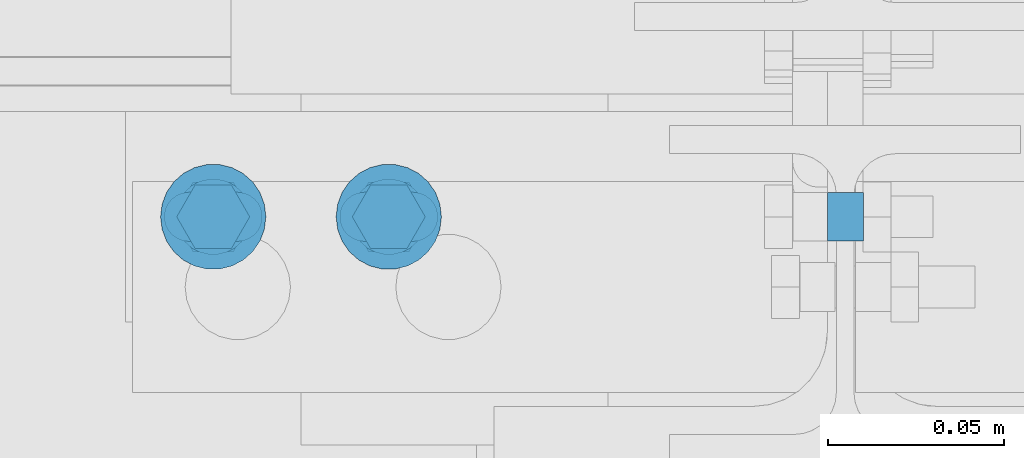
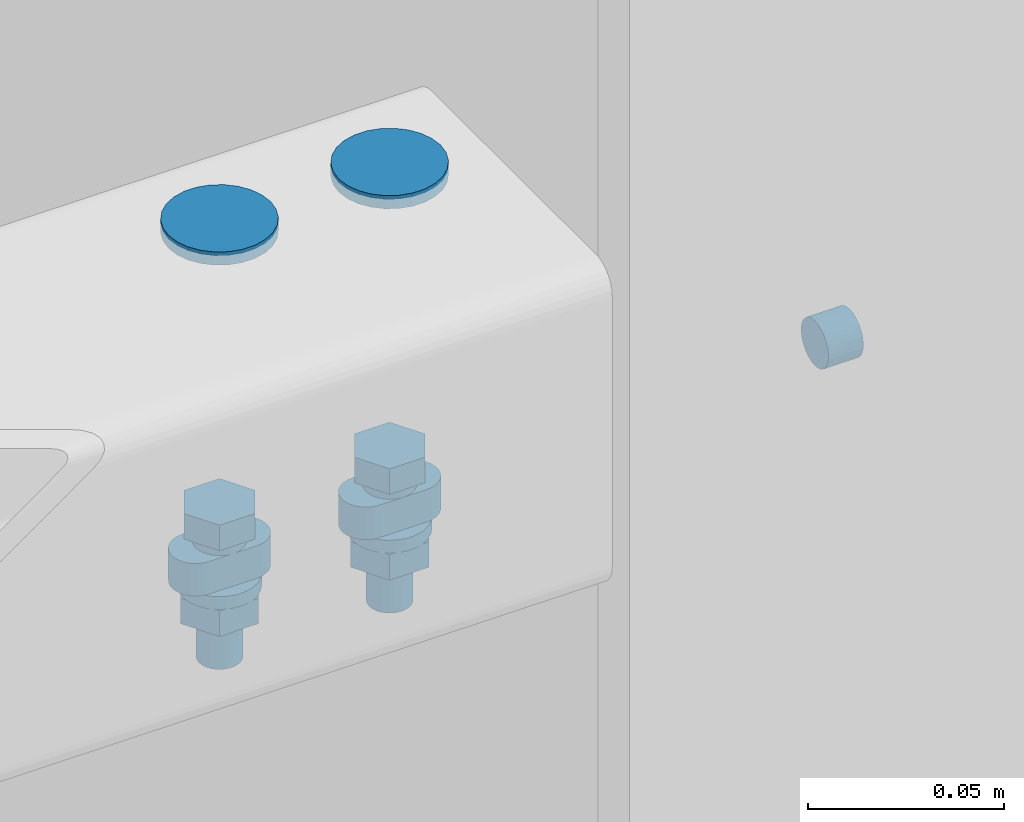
# One storey, part 315 of 362: 3 mechanical fasteners.
"""IFC2X3 building model written with IfcOpenShell, lengths in millimetres."""

from ifc_helpers import new_model, si_unit, frame, frame_2d, origin_with_axes, origin_2d_with_axis, place, context, subcontext, project, spatial, polyline, circle_curve, parameter, trimmed, segment, composite_curve, circle, outline, extrude, source, transform, mapped, material, type_object, element, save


model = new_model("IFC2X3")

# Units and contexts
model_context = context("Model", 3, precision=1e-05, world=origin_with_axes())
body_context = subcontext(model_context, "Body", "Model", "MODEL_VIEW")
ifc_project = project(units=[si_unit("LENGTHUNIT", "METRE", prefix="MILLI"), si_unit("AREAUNIT", "SQUARE_METRE"), si_unit("VOLUMEUNIT", "CUBIC_METRE"), si_unit("MASSUNIT", "GRAM", prefix="KILO"), si_unit("TIMEUNIT", "SECOND"), si_unit("PLANEANGLEUNIT", "RADIAN"), si_unit("SOLIDANGLEUNIT", "STERADIAN"), si_unit("THERMODYNAMICTEMPERATUREUNIT", "DEGREE_CELSIUS"), si_unit("LUMINOUSINTENSITYUNIT", "LUMEN")], contexts=[model_context])

# Site, building, storey
site_placement = place(None, origin_with_axes())
site = spatial("IfcSite", under=ifc_project, at=site_placement, Name="Undefined", CompositionType="ELEMENT")
building_placement = place(site_placement, origin_with_axes())
building = spatial("IfcBuilding", under=site, at=building_placement, Name="Undefined", CompositionType="ELEMENT")
storey_placement = place(building_placement, origin_with_axes())
storey = spatial("IfcBuildingStorey", under=building, at=storey_placement, Name="Undefined", CompositionType="ELEMENT", Elevation=0.0)

# Mechanical fasteners
ifc_material_1 = material(Name="8.8-SB-ZINGUE")
mechanical_fastener_type = type_object("IfcMechanicalFastenerType", Name="Bolt assembly")
shared_shape_1 = source(origin_with_axes(), body_context, "Body", "SweptSolid", [
    extrude(circle(Radius=7.0, at=origin_2d_with_axis()), frame((0.0, -5.10183049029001, 0.0), z_axis=(0.0, 1.0, 0.0), x_axis=(1.0, 0.0, 0.0)), (0.0, 0.0, 1.0), 10.3),
])
mechanical_fastener_1_placement = place(storey_placement, frame((39630.0, -110.000006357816, 2760.0), z_axis=(0.0, 1.0, 0.0), x_axis=(0.0, 0.0, 1.0)))
element("IfcMechanicalFastener", 1, at=mechanical_fastener_1_placement, inside=storey, type_object=mechanical_fastener_type, material=ifc_material_1, Name="Bolt assembly", NominalDiameter=12.0, NominalLength=10.1999998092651, context=body_context, shape_type="MappedRepresentation", body=[
    mapped(shared_shape_1, transform((0.0, 0.0, 0.0))),
])
ifc_material_2 = material(Name="6.8")
shared_shape_2 = source(origin_with_axes(), body_context, "Body", "SweptSolid", [
    extrude(circle(Radius=15.0, at=origin_2d_with_axis()), frame((0.0, 0.0, 0.0), z_axis=(0.0, 1.0, 0.0), x_axis=(1.0, 0.0, 0.0)), (0.0, 0.0, 1.0), 4.1),
])
mechanical_fastener_2_placement = place(storey_placement, frame((39450.000001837, -110.000005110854, 2860.00003731), z_axis=(0.0, 1.0, 0.0), x_axis=(1.0, 0.0, 0.0)))
element("IfcMechanicalFastener", 2, at=mechanical_fastener_2_placement, inside=storey, type_object=mechanical_fastener_type, material=ifc_material_2, Name="Bolt assembly", NominalDiameter=30.0, NominalLength=4.0, context=body_context, shape_type="MappedRepresentation", body=[
    mapped(shared_shape_2, transform((0.0, 0.0, 0.0))),
    mapped(shared_shape_2, transform((49.9999999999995, 0.0, -3.63797880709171e-12))),
])
shared_shape_3 = source(origin_with_axes(), body_context, "Body", "SweptSolid", [
    extrude(circle(Radius=7.0, at=origin_2d_with_axis()), frame((0.0, -3.89999843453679, 0.0), z_axis=(0.0, 1.0, 0.0), x_axis=(1.0, 0.0, 0.0)), (0.0, 0.0, 1.0), 4.0),
    extrude(outline(composite_curve([segment(polyline([(-7.0, 7.0), (7.0, 7.0)]), True, "CONTINUOUS"), segment(trimmed(circle_curve(frame_2d((7.0, 0.0), x_axis=(0.0, 1.0)), 7.0), [parameter(0.0)], [parameter(3.14159265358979)], False, "PARAMETER"), True, "CONTINUOUS"), segment(polyline([(7.0, -7.0), (-7.0, -7.0)]), True, "CONTINUOUS"), segment(trimmed(circle_curve(frame_2d((-7.0, 0.0), x_axis=(0.0, -1.0)), 7.0), [parameter(0.0)], [parameter(3.14159265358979)], False, "PARAMETER"), True, "DISCONTINUOUS")], self_intersect=False)), frame((0.0, -0.100011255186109, 0.0), z_axis=(0.0, 1.0, 0.0), x_axis=(1.0, 0.0, 0.0)), (0.0, 0.0, 1.0), 10.1),
    extrude(outline(polyline([(10.39230484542, 0.0), (5.19615242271, 9.00000000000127), (-5.19615242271, 9.00000000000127), (-10.39230484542, 0.0), (-5.19615242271, -9.00000000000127), (5.19615242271, -9.00000000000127), (10.39230484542, 0.0)])), frame((0.0, -11.9199984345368, 0.0), z_axis=(0.0, 1.0, 0.0), x_axis=(1.0, 0.0, 0.0)), (0.0, 0.0, 1.0), 7.92),
    extrude(circle(Radius=6.0, at=origin_2d_with_axis()), frame((0.0, -3.99999923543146, 0.0), z_axis=(0.0, 1.0, 0.0), x_axis=(1.0, 0.0, 0.0)), (0.0, 0.0, 1.0), 40.0),
    extrude(circle(Radius=10.8, at=origin_2d_with_axis()), frame((0.0, 10.0000000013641, 0.0), z_axis=(0.0, 1.0, 0.0), x_axis=(1.0, 0.0, 0.0)), (0.0, 0.0, 1.0), 3.96),
    extrude(outline(polyline([(11.5008173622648, 0.0), (5.7504086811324, 9.96000000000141), (-5.7504086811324, 9.96000000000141), (-11.5008173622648, 0.0), (-5.7504086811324, -9.96000000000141), (5.7504086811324, -9.96000000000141), (11.5008173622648, 0.0)])), frame((0.0, 13.96, 0.0), z_axis=(0.0, 1.0, 0.0), x_axis=(1.0, 0.0, 0.0)), (0.0, 0.0, 1.0), 7.92),
])
mechanical_fastener_3_placement = place(storey_placement, frame((39450.000001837, -110.000005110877, 2760.00003731), z_axis=(0.0, 1.0, 0.0), x_axis=(1.0, 0.0, 0.0)))
element("IfcMechanicalFastener", 3, at=mechanical_fastener_3_placement, inside=storey, type_object=mechanical_fastener_type, material=ifc_material_1, Name="Bolt assembly", NominalDiameter=12.0, NominalLength=40.0, context=body_context, shape_type="MappedRepresentation", body=[
    mapped(shared_shape_3, transform((0.0, 0.0, 0.0))),
    mapped(shared_shape_3, transform((49.9999999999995, 0.0, -3.63797880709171e-12))),
])

save(model, "model.ifc")
